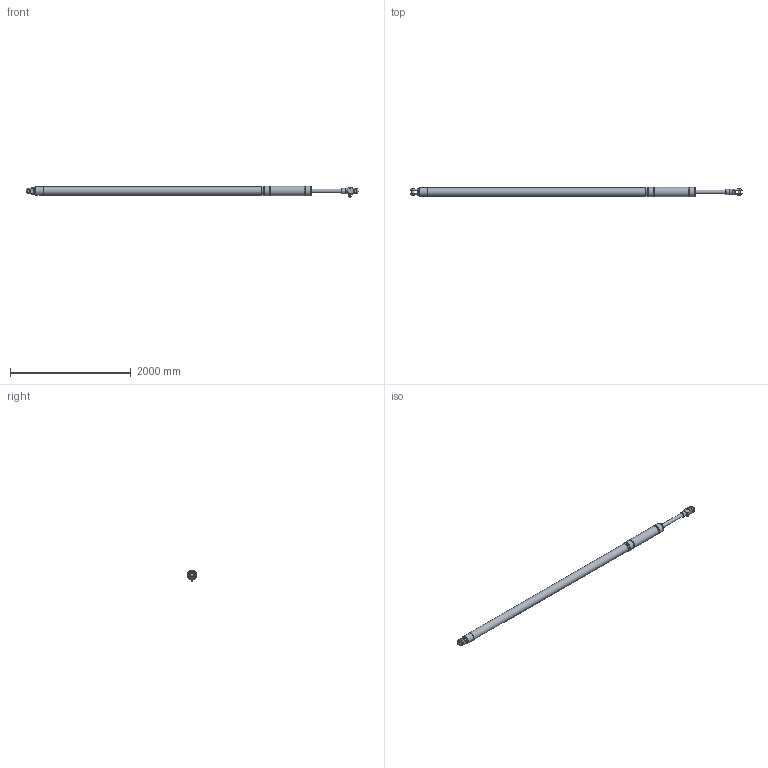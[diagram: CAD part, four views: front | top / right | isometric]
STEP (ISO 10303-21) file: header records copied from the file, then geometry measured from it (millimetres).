
FILE_DESCRIPTION(/* description */ (''),/* implementation_level */ '2;1');
FILE_NAME(/* name */ 'Q:\AA BRAND HYDRAULICS\HYDRAULICS FAMILY DIRECTORY\HYDRAULICS\CYLINDERS\VANGS\ALUMINIUM SINGLE ACTING - STAINLESS ON REQUEST (-0010 To -0150)\VSA-0115-S500-NP-71-L4900\VSA-0115-S500-NP-71-L4900 (Open).stp',/* time_stamp */ '2018-04-03T10:37:21+01:00',/* author */ ('Lorena'),/* organization */ (''),/* preprocessor_version */ 'ST-DEVELOPER v17',/* originating_system */ 'Autodesk Inventor 2018',/* authorisation */ '');
FILE_SCHEMA (('AUTOMOTIVE_DESIGN { 1 0 10303 214 3 1 1 }'));
Length unit declared in the file: millimetre
Products named in the file (1): VSA-0115-S500-NP-71-L4900 (Open)
Bounding box: 5491.37 x 155.4 x 188.47 mm (x, y, z)
Volume: 72701165.5 mm3; surface area: 2320279 mm2
Topology: 2 solids, 5 shells, 1688 faces, 4496 edges, 2973 vertices
Faces by surface type: plane 954, bspline 576, cylinder 87, cone 63, sphere 4, torus 4
Full cylindrical faces by diameter (mm): 5 x2, 8.1 x1, 9.9 x1, 10 x2, 11 x2, 12 x2, 13 x2, 14.662 x1, 15 x2, 15.662 x1, 16.662 x2, 18 x2, 19 x1, 19.11 x1, 20 x1, 21.4 x3, 24 x2, 27 x1, 28 x1, 34.9 x2, 34.93 x4, 43.625 x2, 60 x1, 62 x1, 84 x1, 135 x2, 150.8 x1, 152.4 x1, 155.4 x4
Entity records: 61185 total; most frequent: CARTESIAN_POINT 21221, ORIENTED_EDGE 8982, DIRECTION 5833, EDGE_CURVE 4491, VERTEX_POINT 2974, LINE 2857, VECTOR 2857, EDGE_LOOP 1863
